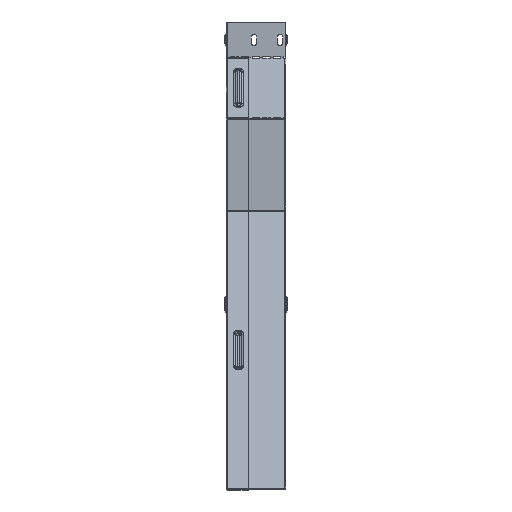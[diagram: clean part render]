
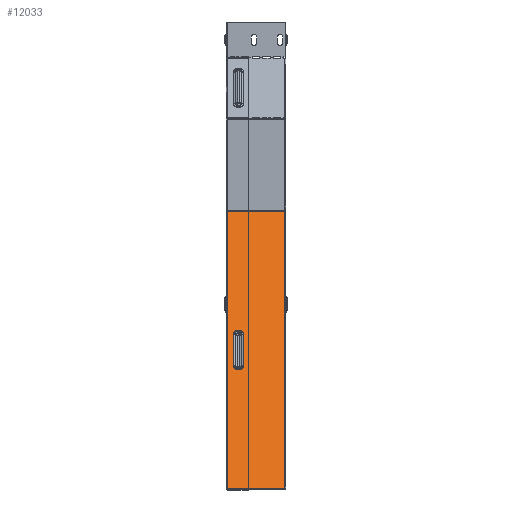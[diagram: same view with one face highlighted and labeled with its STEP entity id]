
A CAD part, left-side view. The second image highlights one B-rep face of the part: STEP entity #12033.
In plain terms, the highlighted planar face has unit normal (-0.707, 0, 0.707).
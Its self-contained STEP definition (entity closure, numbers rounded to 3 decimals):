
#163 = EDGE_CURVE ( 'NONE', #10254, #14601, #16006, .T. ) ;
#783 = EDGE_CURVE ( 'NONE', #18383, #13210, #3934, .T. ) ;
#854 = CARTESIAN_POINT ( 'NONE',  ( 105.721, 70.017, -148.148 ) ) ;
#992 = ORIENTED_EDGE ( 'NONE', *, *, #19971, .T. ) ;
#1795 = VECTOR ( 'NONE', #8929, 1000. ) ;
#1874 = AXIS2_PLACEMENT_3D ( 'NONE', #3776, #19487, #8642 ) ;
#2552 = ORIENTED_EDGE ( 'NONE', *, *, #783, .F. ) ;
#3776 = CARTESIAN_POINT ( 'NONE',  ( 148.148, 63.1, -105.721 ) ) ;
#3934 = LINE ( 'NONE', #7694, #12848 ) ;
#4477 = CIRCLE ( 'NONE', #18733, 6.917 ) ;
#4640 = LINE ( 'NONE', #7042, #7872 ) ;
#4978 = ORIENTED_EDGE ( 'NONE', *, *, #19739, .F. ) ;
#5043 = PLANE ( 'NONE',  #20461 ) ;
#5462 = CARTESIAN_POINT ( 'NONE',  ( 314.434, 78.2, 60.566 ) ) ;
#5737 = VERTEX_POINT ( 'NONE', #14028 ) ;
#6399 = LINE ( 'NONE', #19570, #7122 ) ;
#6565 = DIRECTION ( 'NONE',  ( -0.707, 0., -0.707 ) ) ;
#6689 = CARTESIAN_POINT ( 'NONE',  ( 105.721, 63.1, -148.148 ) ) ;
#6927 = DIRECTION ( 'NONE',  ( 0.707, 0., 0.707 ) ) ;
#6948 = CARTESIAN_POINT ( 'NONE',  ( -60.255, 1., -314.123 ) ) ;
#7042 = CARTESIAN_POINT ( 'NONE',  ( 314.123, 0., 60.255 ) ) ;
#7122 = VECTOR ( 'NONE', #6927, 1000. ) ;
#7649 = VECTOR ( 'NONE', #8445, 1000. ) ;
#7694 = CARTESIAN_POINT ( 'NONE',  ( -60.255, 0., -314.123 ) ) ;
#7872 = VECTOR ( 'NONE', #18022, 1000. ) ;
#7873 = CARTESIAN_POINT ( 'NONE',  ( -60.255, 78.2, -314.123 ) ) ;
#8332 = ORIENTED_EDGE ( 'NONE', *, *, #11647, .F. ) ;
#8445 = DIRECTION ( 'NONE',  ( -0.707, 0., -0.707 ) ) ;
#8642 = DIRECTION ( 'NONE',  ( 0., 1., 0. ) ) ;
#8754 = ORIENTED_EDGE ( 'NONE', *, *, #11440, .F. ) ;
#8929 = DIRECTION ( 'NONE',  ( 0.707, 0., 0.707 ) ) ;
#9865 = CARTESIAN_POINT ( 'NONE',  ( 148.148, 56.183, -105.721 ) ) ;
#10254 = VERTEX_POINT ( 'NONE', #15154 ) ;
#10521 = ORIENTED_EDGE ( 'NONE', *, *, #14271, .F. ) ;
#11224 = LINE ( 'NONE', #5462, #1795 ) ;
#11349 = CARTESIAN_POINT ( 'NONE',  ( 126.934, 0., -126.934 ) ) ;
#11440 = EDGE_CURVE ( 'NONE', #13210, #13844, #11224, .T. ) ;
#11445 = CARTESIAN_POINT ( 'NONE',  ( 314.123, 78.2, 60.255 ) ) ;
#11543 = DIRECTION ( 'NONE',  ( 0., 1., 0. ) ) ;
#11633 = VERTEX_POINT ( 'NONE', #9865 ) ;
#11647 = EDGE_CURVE ( 'NONE', #5737, #18383, #15850, .T. ) ;
#12033 = ADVANCED_FACE ( 'NONE', ( #17205, #16963 ), #5043, .T. ) ;
#12848 = VECTOR ( 'NONE', #14017, 1000. ) ;
#12963 = ORIENTED_EDGE ( 'NONE', *, *, #163, .F. ) ;
#13159 = VECTOR ( 'NONE', #6565, 1000. ) ;
#13210 = VERTEX_POINT ( 'NONE', #7873 ) ;
#13844 = VERTEX_POINT ( 'NONE', #11445 ) ;
#14017 = DIRECTION ( 'NONE',  ( 0., 1., 0. ) ) ;
#14028 = CARTESIAN_POINT ( 'NONE',  ( 314.123, 1., 60.255 ) ) ;
#14187 = CARTESIAN_POINT ( 'NONE',  ( 105.721, 56.183, -148.148 ) ) ;
#14271 = EDGE_CURVE ( 'NONE', #11633, #10254, #19500, .T. ) ;
#14601 = VERTEX_POINT ( 'NONE', #854 ) ;
#15154 = CARTESIAN_POINT ( 'NONE',  ( 148.148, 70.017, -105.721 ) ) ;
#15169 = EDGE_LOOP ( 'NONE', ( #17975, #12963, #10521, #4978 ) ) ;
#15850 = LINE ( 'NONE', #17624, #13159 ) ;
#16006 = LINE ( 'NONE', #19416, #7649 ) ;
#16266 = DIRECTION ( 'NONE',  ( -0.707, 0., 0.707 ) ) ;
#16606 = EDGE_LOOP ( 'NONE', ( #8332, #992, #8754, #2552 ) ) ;
#16963 = FACE_OUTER_BOUND ( 'NONE', #16606, .T. ) ;
#17205 = FACE_BOUND ( 'NONE', #15169, .T. ) ;
#17383 = DIRECTION ( 'NONE',  ( 0.707, 0., 0.707 ) ) ;
#17624 = CARTESIAN_POINT ( 'NONE',  ( 314.434, 1., 60.566 ) ) ;
#17637 = DIRECTION ( 'NONE',  ( -0.707, 0., 0.707 ) ) ;
#17808 = EDGE_CURVE ( 'NONE', #14601, #18188, #4477, .T. ) ;
#17975 = ORIENTED_EDGE ( 'NONE', *, *, #17808, .F. ) ;
#18022 = DIRECTION ( 'NONE',  ( 0., 1., 0. ) ) ;
#18188 = VERTEX_POINT ( 'NONE', #14187 ) ;
#18383 = VERTEX_POINT ( 'NONE', #6948 ) ;
#18733 = AXIS2_PLACEMENT_3D ( 'NONE', #6689, #16266, #11543 ) ;
#19416 = CARTESIAN_POINT ( 'NONE',  ( 126.934, 70.017, -126.934 ) ) ;
#19487 = DIRECTION ( 'NONE',  ( -0.707, 0., 0.707 ) ) ;
#19500 = CIRCLE ( 'NONE', #1874, 6.917 ) ;
#19570 = CARTESIAN_POINT ( 'NONE',  ( 126.934, 56.183, -126.934 ) ) ;
#19739 = EDGE_CURVE ( 'NONE', #18188, #11633, #6399, .T. ) ;
#19971 = EDGE_CURVE ( 'NONE', #5737, #13844, #4640, .T. ) ;
#20461 = AXIS2_PLACEMENT_3D ( 'NONE', #11349, #17637, #17383 ) ;
